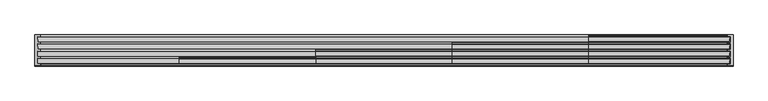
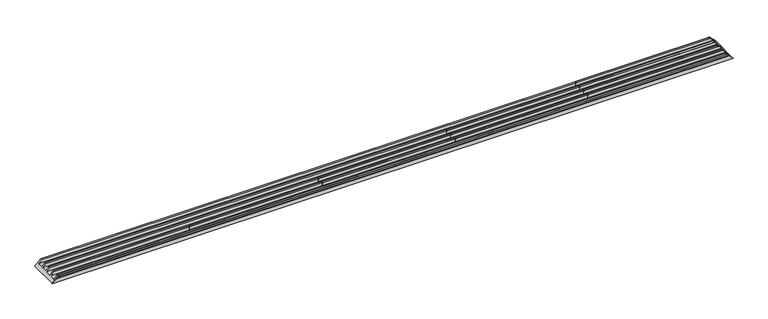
"""IFC4 building model written with IfcOpenShell, lengths in millimetres: proxy geometry, Weiku - Montante - Caixilho quíntuplo 02.2.01.003-003 refilado : Weiku - Montante - Caixilho quíntuplo 02.2.01.003-003 refilado."""

from ifc_helpers import new_model, si_unit, point, frame, frame_2d, origin, place, context, project, spatial, polyline, circle_curve, ellipse_curve, trimmed, segment, composite_curve, outline, extrude, faceted_brep, source, transform, mapped, element, save
from ifc_brep_helpers import plane_surface, cylinder_surface, revolved_surface, advanced_brep


def generic_models_486d1e09(model_context):
    return source(origin(), model_context, "Body", "SolidModel", [
        advanced_brep(
        [(1756.2, -15.0, 52.0), (1756.2, -15.0, 26.0), (1756.2, -62.0, 23.7770256), (1756.2, -62.0, 52.0), (1756.2, -77.0, 52.0), (1756.2, -77.0, 26.0), (1756.2, -124.0, 23.7770256), (1756.2, -124.0, 52.0), (1756.2, -139.0, 52.0), (1756.2, -139.0, 26.0), (1756.2, -186.0, 23.7770256), (1756.2, -186.0, 52.0), (1756.2, -201.0, 52.0), (1756.2, -201.0, 26.0), (1756.2, -248.0, 23.7770256), (1756.2, -248.0, 52.0), (1756.2, -246.0, 52.0), (1756.2, -246.0, 26.8749739), (1756.2, -203.0, 28.908759), (1756.2, -203.0, 55.0), (1756.2, -202.0, 56.0), (1756.2, -185.0, 56.0), (1756.2, -184.0, 55.0), (1756.2, -184.0, 26.8749739), (1756.2, -141.0, 28.908759), (1756.2, -141.0, 55.0), (1756.2, -140.0, 56.0), (1756.2, -123.0, 56.0), (1756.2, -122.0, 55.0), (1756.2, -122.0, 26.8749739), (1756.2, -79.0, 28.908759), (1756.2, -79.0, 55.0), (1756.2, -78.0, 56.0), (1756.2, -61.0, 56.0), (1756.2, -60.0, 55.0), (1756.2, -60.0, 26.8749739), (1756.2, -17.0, 28.908759), (1756.2, -17.0, 55.0), (1756.2, -16.0, 56.0), (1756.2, -1.0, 56.0), (1756.2, 0.0, 55.0), (1756.2, 0.0, 52.0), (2945.0, 0.0, 52.0), (2945.0, -15.0, 52.0), (2942.0, 0.0, 55.0), (2941.0, -1.0, 56.0), (2941.0, -16.0, 56.0), (2942.0, -17.0, 55.0), (2968.091241, -17.0, 28.908759), (2942.0, -122.0, 55.0), (2970.1250261, -122.0, 26.8749739), (2973.2229744, -124.0, 23.7770256), (2945.0, -124.0, 52.0), (2971.0, -15.0, 26.0), (2941.0, -123.0, 56.0), (2942.0, -203.0, 55.0), (2941.0, -202.0, 56.0), (2968.091241, -203.0, 28.908759), (2970.1250261, -246.0, 26.8749739), (2945.0, -246.0, 52.0), (2945.0, -248.0, 52.0), (2973.2229744, -248.0, 23.7770256), (2971.0, -201.0, 26.0), (2945.0, -201.0, 52.0), (2941.0, -140.0, 56.0), (2942.0, -141.0, 55.0), (2968.091241, -141.0, 28.908759), (2970.1250261, -184.0, 26.8749739), (2942.0, -184.0, 55.0), (2941.0, -185.0, 56.0), (2945.0, -186.0, 52.0), (2973.2229744, -186.0, 23.7770256), (2971.0, -139.0, 26.0), (2945.0, -139.0, 52.0), (2970.1250261, -60.0, 26.8749739), (2942.0, -60.0, 55.0), (2941.0, -61.0, 56.0), (2941.0, -78.0, 56.0), (2942.0, -79.0, 55.0), (2968.091241, -79.0, 28.908759), (2971.0, -77.0, 26.0), (2945.0, -77.0, 52.0), (2945.0, -62.0, 52.0), (2973.2229744, -62.0, 23.7770256)],
        [
            (0, 1),
            (1, 2),
            (2, 3),
            (3, 4),
            (4, 5),
            (5, 6),
            (6, 7),
            (7, 8),
            (8, 9),
            (9, 10),
            (10, 11),
            (11, 12),
            (12, 13),
            (13, 14),
            (14, 15),
            (15, 16),
            (16, 17),
            (17, 18),
            (18, 19),
            (19, 20, circle_curve(frame((1756.2, -202.0, 55.0), z_axis=(-1.0, 0.0, 0.0), x_axis=(0.0, -1.0, 0.0)), 1.0)),
            (20, 21),
            (21, 22, circle_curve(frame((1756.2, -185.0, 55.0), z_axis=(-1.0, 0.0, 0.0), x_axis=(0.0, -1.0, 0.0)), 1.0)),
            (22, 23),
            (23, 24),
            (24, 25),
            (25, 26, circle_curve(frame((1756.2, -140.0, 55.0), z_axis=(-1.0, 0.0, 0.0), x_axis=(0.0, -1.0, 0.0)), 1.0)),
            (26, 27),
            (27, 28, circle_curve(frame((1756.2, -123.0, 55.0), z_axis=(-1.0, 0.0, 0.0), x_axis=(0.0, -1.0, 0.0)), 1.0)),
            (28, 29),
            (29, 30),
            (30, 31),
            (31, 32, circle_curve(frame((1756.2, -78.0, 55.0), z_axis=(-1.0, 0.0, 0.0), x_axis=(0.0, -1.0, 0.0)), 1.0)),
            (32, 33),
            (33, 34, circle_curve(frame((1756.2, -61.0, 55.0), z_axis=(-1.0, 0.0, 0.0), x_axis=(0.0, -1.0, 0.0)), 1.0)),
            (34, 35),
            (35, 36),
            (36, 37),
            (37, 38, circle_curve(frame((1756.2, -16.0, 55.0), z_axis=(-1.0, 0.0, 0.0), x_axis=(0.0, -1.0, 0.0)), 1.0)),
            (38, 39),
            (39, 40, circle_curve(frame((1756.2, -1.0, 55.0), z_axis=(-1.0, 0.0, 0.0), x_axis=(0.0, -1.0, 0.0)), 1.0)),
            (40, 41),
            (41, 0),
            (41, 42),
            (42, 43),
            (43, 0),
            (40, 44),
            (44, 42),
            (39, 45),
            (45, 44, ellipse_curve(frame((2942.0, -1.0, 55.0), z_axis=(-0.7071067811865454, 0.0, -0.7071067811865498), x_axis=(-0.7071067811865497, 0.0, 0.7071067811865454)), 1.4142136, 1.0)),
            (38, 46),
            (46, 45),
            (37, 47),
            (47, 46, ellipse_curve(frame((2942.0, -16.0, 55.0), z_axis=(-0.7071067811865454, 0.0, -0.7071067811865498), x_axis=(-0.7071067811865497, 0.0, 0.7071067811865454)), 1.4142136, 1.0)),
            (36, 48),
            (48, 47),
            (28, 49),
            (49, 50),
            (50, 29),
            (6, 51),
            (51, 52),
            (52, 7),
            (43, 53),
            (53, 1),
            (27, 54),
            (54, 49, ellipse_curve(frame((2942.0, -123.0, 55.0), z_axis=(-0.7071067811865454, 0.0, -0.7071067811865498), x_axis=(-0.7071067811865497, 0.0, 0.7071067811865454)), 1.4142136, 1.0)),
            (19, 55),
            (55, 56, ellipse_curve(frame((2942.0, -202.0, 55.0), z_axis=(-0.7071067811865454, 0.0, -0.7071067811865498), x_axis=(-0.7071067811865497, 0.0, 0.7071067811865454)), 1.4142136, 1.0)),
            (56, 20),
            (18, 57),
            (57, 55),
            (17, 58),
            (58, 57),
            (16, 59),
            (59, 58),
            (15, 60),
            (60, 59),
            (14, 61),
            (61, 60),
            (13, 62),
            (62, 61),
            (12, 63),
            (63, 62),
            (26, 64),
            (64, 54),
            (25, 65),
            (65, 64, ellipse_curve(frame((2942.0, -140.0, 55.0), z_axis=(-0.7071067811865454, 0.0, -0.7071067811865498), x_axis=(-0.7071067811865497, 0.0, 0.7071067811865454)), 1.4142136, 1.0)),
            (24, 66),
            (66, 65),
            (23, 67),
            (67, 66),
            (22, 68),
            (68, 67),
            (21, 69),
            (69, 68, ellipse_curve(frame((2942.0, -185.0, 55.0), z_axis=(-0.7071067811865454, 0.0, -0.7071067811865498), x_axis=(-0.7071067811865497, 0.0, 0.7071067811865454)), 1.4142136, 1.0)),
            (56, 69),
            (11, 70),
            (70, 63),
            (10, 71),
            (71, 70),
            (9, 72),
            (72, 71),
            (8, 73),
            (73, 72),
            (52, 73),
            (35, 74),
            (74, 48),
            (34, 75),
            (75, 74),
            (33, 76),
            (76, 75, ellipse_curve(frame((2942.0, -61.0, 55.0), z_axis=(-0.7071067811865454, 0.0, -0.7071067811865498), x_axis=(-0.7071067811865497, 0.0, 0.7071067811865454)), 1.4142136, 1.0)),
            (32, 77),
            (77, 76),
            (31, 78),
            (78, 77, ellipse_curve(frame((2942.0, -78.0, 55.0), z_axis=(-0.7071067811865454, 0.0, -0.7071067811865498), x_axis=(-0.7071067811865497, 0.0, 0.7071067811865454)), 1.4142136, 1.0)),
            (30, 79),
            (79, 78),
            (50, 79),
            (5, 80),
            (80, 51),
            (4, 81),
            (81, 80),
            (3, 82),
            (82, 81),
            (2, 83),
            (83, 82),
            (53, 83),
        ],
        [
            plane_surface(frame((1756.2, 0.0, 0.0), z_axis=(-1.0, 0.0, 0.0), x_axis=(0.0, 0.0, 1.0))),
            plane_surface(frame((1756.2, -15.0, 52.0), z_axis=(0.0, 0.0, -1.0), x_axis=(1.0, 0.0, 0.0))),
            plane_surface(frame((1756.2, 0.0, 52.0), z_axis=(0.0, 1.0, 0.0), x_axis=(1.0, 0.0, 0.0))),
            cylinder_surface(frame((1756.2, -1.0, 55.0), z_axis=(-1.0, 0.0, 0.0), x_axis=(0.0, -1.0, 0.0)), 1.0),
            plane_surface(frame((1756.2, -1.0, 56.0), z_axis=(0.0, 0.0, 1.0), x_axis=(1.0, 0.0, 0.0))),
            cylinder_surface(frame((1756.2, -16.0, 55.0), z_axis=(-1.0, 0.0, 0.0), x_axis=(0.0, -1.0, 0.0)), 1.0),
            plane_surface(frame((1756.2, -17.0, 55.0), z_axis=(0.0, -1.0, 0.0), x_axis=(1.0, 0.0, 0.0))),
            plane_surface(frame((1756.2, -122.0, 26.8749739), z_axis=(0.0, 1.0, 0.0), x_axis=(1.0, 0.0, 0.0))),
            plane_surface(frame((1756.2, -124.0, 52.0), z_axis=(0.0, -1.0, 0.0), x_axis=(1.0, 0.0, 0.0))),
            plane_surface(frame((1756.2, -15.0, 26.0), z_axis=(0.0, 1.0, 0.0), x_axis=(1.0, 0.0, 0.0))),
            cylinder_surface(frame((1756.2, -123.0, 55.0), z_axis=(-1.0, 0.0, 0.0), x_axis=(0.0, -1.0, 0.0)), 1.0),
            cylinder_surface(frame((1756.2, -202.0, 55.0), z_axis=(-1.0, 0.0, 0.0), x_axis=(0.0, -1.0, 0.0)), 1.0),
            plane_surface(frame((1756.2, -203.0, 55.0), z_axis=(0.0, -1.0, 0.0), x_axis=(1.0, 0.0, 0.0))),
            plane_surface(frame((1756.2, -203.0, 28.908759), z_axis=(0.0, -0.0472445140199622, 0.9988833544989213), x_axis=(1.0, 0.0, 0.0))),
            plane_surface(frame((1756.2, -246.0, 26.8749739), z_axis=(0.0, 1.0, 0.0), x_axis=(1.0, 0.0, 0.0))),
            plane_surface(frame((1756.2, -246.0, 52.0), z_axis=(0.0, 0.0, 1.0), x_axis=(1.0, 0.0, 0.0))),
            plane_surface(frame((1756.2, -248.0, 52.0), z_axis=(0.0, -1.0, 0.0), x_axis=(1.0, 0.0, 0.0))),
            plane_surface(frame((1756.2, -248.0, 23.7770256), z_axis=(0.0, 0.047244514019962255, -0.9988833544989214), x_axis=(1.0, 0.0, 0.0))),
            plane_surface(frame((1756.2, -201.0, 26.0), z_axis=(0.0, 1.0, 0.0), x_axis=(1.0, 0.0, 0.0))),
            plane_surface(frame((1756.2, -123.0, 56.0), z_axis=(0.0, 0.0, 1.0), x_axis=(1.0, 0.0, 0.0))),
            cylinder_surface(frame((1756.2, -140.0, 55.0), z_axis=(-1.0, 0.0, 0.0), x_axis=(0.0, -1.0, 0.0)), 1.0),
            plane_surface(frame((1756.2, -141.0, 55.0), z_axis=(0.0, -1.0, 0.0), x_axis=(1.0, 0.0, 0.0))),
            plane_surface(frame((1756.2, -141.0, 28.908759), z_axis=(0.0, -0.0472445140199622, 0.9988833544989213), x_axis=(1.0, 0.0, 0.0))),
            plane_surface(frame((1756.2, -184.0, 26.8749739), z_axis=(0.0, 1.0, 0.0), x_axis=(1.0, 0.0, 0.0))),
            cylinder_surface(frame((1756.2, -185.0, 55.0), z_axis=(-1.0, 0.0, 0.0), x_axis=(0.0, -1.0, 0.0)), 1.0),
            plane_surface(frame((1756.2, -185.0, 56.0), z_axis=(0.0, 0.0, 1.0), x_axis=(1.0, 0.0, 0.0))),
            plane_surface(frame((1756.2, -201.0, 52.0), z_axis=(0.0, 0.0, -1.0), x_axis=(1.0, 0.0, 0.0))),
            plane_surface(frame((1756.2, -186.0, 52.0), z_axis=(0.0, -1.0, 0.0), x_axis=(1.0, 0.0, 0.0))),
            plane_surface(frame((1756.2, -186.0, 23.7770256), z_axis=(0.0, 0.047244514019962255, -0.9988833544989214), x_axis=(1.0, 0.0, 0.0))),
            plane_surface(frame((1756.2, -139.0, 26.0), z_axis=(0.0, 1.0, 0.0), x_axis=(1.0, 0.0, 0.0))),
            plane_surface(frame((1756.2, -139.0, 52.0), z_axis=(0.0, 0.0, -1.0), x_axis=(1.0, 0.0, 0.0))),
            plane_surface(frame((1756.2, -17.0, 28.908759), z_axis=(0.0, -0.0472445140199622, 0.9988833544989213), x_axis=(1.0, 0.0, 0.0))),
            plane_surface(frame((1756.2, -60.0, 26.8749739), z_axis=(0.0, 1.0, 0.0), x_axis=(1.0, 0.0, 0.0))),
            cylinder_surface(frame((1756.2, -61.0, 55.0), z_axis=(-1.0, 0.0, 0.0), x_axis=(0.0, -1.0, 0.0)), 1.0),
            plane_surface(frame((1756.2, -61.0, 56.0), z_axis=(0.0, 0.0, 1.0), x_axis=(1.0, 0.0, 0.0))),
            cylinder_surface(frame((1756.2, -78.0, 55.0), z_axis=(-1.0, 0.0, 0.0), x_axis=(0.0, -1.0, 0.0)), 1.0),
            plane_surface(frame((1756.2, -79.0, 55.0), z_axis=(0.0, -1.0, 0.0), x_axis=(1.0, 0.0, 0.0))),
            plane_surface(frame((1756.2, -79.0, 28.908759), z_axis=(0.0, -0.0472445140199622, 0.9988833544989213), x_axis=(1.0, 0.0, 0.0))),
            plane_surface(frame((1756.2, -124.0, 23.7770256), z_axis=(0.0, 0.047244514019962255, -0.9988833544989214), x_axis=(1.0, 0.0, 0.0))),
            plane_surface(frame((1756.2, -77.0, 26.0), z_axis=(0.0, 1.0, 0.0), x_axis=(1.0, 0.0, 0.0))),
            plane_surface(frame((1756.2, -77.0, 52.0), z_axis=(0.0, 0.0, -1.0), x_axis=(1.0, 0.0, 0.0))),
            plane_surface(frame((1756.2, -62.0, 52.0), z_axis=(0.0, -1.0, 0.0), x_axis=(1.0, 0.0, 0.0))),
            plane_surface(frame((1756.2, -62.0, 23.7770256), z_axis=(0.0, 0.047244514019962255, -0.9988833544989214), x_axis=(1.0, 0.0, 0.0))),
            plane_surface(frame((2997.0, 12.7162259, 0.0), z_axis=(0.7071067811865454, 0.0, 0.7071067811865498), x_axis=(-0.7071067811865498, 0.0, 0.7071067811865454))),
        ],
        [
            (0, [[1, 2, 3, 4, 5, 6, 7, 8, 9, 10, 11, 12, 13, 14, 15, 16, 17, 18, 19, 20, 21, 22, 23, 24, 25, 26, 27, 28, 29, 30, 31, 32, 33, 34, 35, 36, 37, 38, 39, 40, 41, 42]]),
            (1, [[43, 44, 45, -42]]),
            (2, [[46, 47, -43, -41]]),
            (3, [[48, 49, -46, -40]]),
            (4, [[50, 51, -48, -39]]),
            (5, [[52, 53, -50, -38]]),
            (6, [[54, 55, -52, -37]]),
            (7, [[56, 57, 58, -29]]),
            (8, [[59, 60, 61, -7]]),
            (9, [[-45, 62, 63, -1]]),
            (10, [[64, 65, -56, -28]]),
            (11, [[66, 67, 68, -20]]),
            (12, [[69, 70, -66, -19]]),
            (13, [[71, 72, -69, -18]]),
            (14, [[73, 74, -71, -17]]),
            (15, [[75, 76, -73, -16]]),
            (16, [[77, 78, -75, -15]]),
            (17, [[79, 80, -77, -14]]),
            (18, [[81, 82, -79, -13]]),
            (19, [[83, 84, -64, -27]]),
            (20, [[85, 86, -83, -26]]),
            (21, [[87, 88, -85, -25]]),
            (22, [[89, 90, -87, -24]]),
            (23, [[91, 92, -89, -23]]),
            (24, [[93, 94, -91, -22]]),
            (25, [[-68, 95, -93, -21]]),
            (26, [[96, 97, -81, -12]]),
            (27, [[98, 99, -96, -11]]),
            (28, [[100, 101, -98, -10]]),
            (29, [[102, 103, -100, -9]]),
            (30, [[-61, 104, -102, -8]]),
            (31, [[105, 106, -54, -36]]),
            (32, [[107, 108, -105, -35]]),
            (33, [[109, 110, -107, -34]]),
            (34, [[111, 112, -109, -33]]),
            (35, [[113, 114, -111, -32]]),
            (36, [[115, 116, -113, -31]]),
            (37, [[-58, 117, -115, -30]]),
            (38, [[118, 119, -59, -6]]),
            (39, [[120, 121, -118, -5]]),
            (40, [[122, 123, -120, -4]]),
            (41, [[124, 125, -122, -3]]),
            (42, [[-63, 126, -124, -2]]),
            (43, [[-47, -49, -51, -53, -55, -106, -108, -110, -112, -114, -116, -117, -57, -65, -84, -86, -88, -90, -92, -94, -95, -67, -70, -72, -74, -76, -78, -80, -82, -97, -99, -101, -103, -104, -60, -119, -121, -123, -125, -126, -62, -44]]),
        ],
    ),
        extrude(outline(composite_curve([segment(polyline([(-77.0, 52.0), (-77.0, 26.0), (-124.0, 23.7770256), (-124.0, 52.0), (-139.0, 52.0), (-139.0, 26.0), (-186.0, 23.7770256), (-186.0, 52.0), (-201.0, 52.0), (-201.0, 26.0), (-248.0, 23.7770256), (-248.0, 52.0), (-246.0, 52.0), (-246.0, 26.8749739), (-203.0, 28.908759), (-203.0, 55.0)]), True, "CONTINUOUS"), segment(trimmed(circle_curve(frame_2d((-202.0, 55.0)), 1.0), [point((-203.0, 55.0))], [point((-202.0, 56.0))], False, "CARTESIAN"), True, "CONTINUOUS"), segment(polyline([(-202.0, 56.0), (-185.0, 56.0)]), True, "CONTINUOUS"), segment(trimmed(circle_curve(frame_2d((-185.0, 55.0)), 1.0), [point((-185.0, 56.0))], [point((-184.0, 55.0))], False, "CARTESIAN"), True, "CONTINUOUS"), segment(polyline([(-184.0, 55.0), (-184.0, 26.8749739), (-141.0, 28.908759), (-141.0, 55.0)]), True, "CONTINUOUS"), segment(trimmed(circle_curve(frame_2d((-140.0, 55.0)), 1.0), [point((-141.0, 55.0))], [point((-140.0, 56.0))], False, "CARTESIAN"), True, "CONTINUOUS"), segment(polyline([(-140.0, 56.0), (-123.0, 56.0)]), True, "CONTINUOUS"), segment(trimmed(circle_curve(frame_2d((-123.0, 55.0)), 1.0), [point((-123.0, 56.0))], [point((-122.0, 55.0))], False, "CARTESIAN"), True, "CONTINUOUS"), segment(polyline([(-122.0, 55.0), (-122.0, 26.8749739), (-79.0, 28.908759), (-79.0, 55.0)]), True, "CONTINUOUS"), segment(trimmed(circle_curve(frame_2d((-78.0, 55.0)), 1.0), [point((-79.0, 55.0))], [point((-78.0, 56.0))], False, "CARTESIAN"), True, "CONTINUOUS"), segment(polyline([(-78.0, 56.0), (-63.0, 56.0)]), True, "CONTINUOUS"), segment(trimmed(circle_curve(frame_2d((-63.0, 55.0)), 1.0), [point((-63.0, 56.0))], [point((-62.0, 55.0))], False, "CARTESIAN"), True, "CONTINUOUS"), segment(polyline([(-62.0, 55.0), (-62.0, 52.0), (-77.0, 52.0)]), True, "CONTINUOUS")], self_intersect=False)), frame((585.4, 0.0, 0.0), z_axis=(1.0, 0.0, 0.0), x_axis=(0.0, 1.0, 0.0)), (0.0, 0.0, 1.0), 1170.8),
        advanced_brep(
        [(-2942.0, -246.0, 55.0), (2942.0, -246.0, 55.0), (2945.0, -246.0, 52.0), (-2945.0, -246.0, 52.0), (-2941.0, -247.0, 56.0), (2941.0, -247.0, 56.0), (-2941.0, -264.0, 56.0), (2941.0, -264.0, 56.0), (-2942.0, -265.0, 55.0), (2942.0, -265.0, 55.0), (-2956.0, -265.0, 41.0), (2956.0, -265.0, 41.0), (-2959.0, -266.0, 38.0), (2959.0, -266.0, 38.0), (-2962.0, -267.0, 35.0), (2962.0, -267.0, 35.0), (2997.0, -267.0, 0.0), (-2997.0, -267.0, 0.0), (-2997.0, -263.0, 0.0), (2997.0, -263.0, 0.0), (-2945.0, -263.0, 52.0), (2945.0, -263.0, 52.0)],
        [
            (0, 1),
            (1, 2),
            (2, 3),
            (3, 0),
            (4, 5),
            (5, 1, ellipse_curve(frame((2942.0, -247.0, 55.0), z_axis=(-0.7071067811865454, 0.0, -0.7071067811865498), x_axis=(-0.7071067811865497, 0.0, 0.7071067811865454)), 1.4142136, 1.0)),
            (0, 4, ellipse_curve(frame((-2942.0, -247.0, 55.0), z_axis=(0.707106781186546, 0.0, -0.7071067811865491), x_axis=(-0.7071067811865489, 0.0, -0.707106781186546)), 1.4142136, 1.0)),
            (6, 7),
            (7, 5),
            (4, 6),
            (8, 9),
            (9, 7, ellipse_curve(frame((2942.0, -264.0, 55.0), z_axis=(-0.7071067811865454, 0.0, -0.7071067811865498), x_axis=(-0.7071067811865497, 0.0, 0.7071067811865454)), 1.4142136, 1.0)),
            (6, 8, ellipse_curve(frame((-2942.0, -264.0, 55.0), z_axis=(0.707106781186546, 0.0, -0.7071067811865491), x_axis=(-0.7071067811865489, 0.0, -0.707106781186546)), 1.4142136, 1.0)),
            (10, 11),
            (11, 9),
            (8, 10),
            (12, 13),
            (13, 11, ellipse_curve(frame((2956.0, -270.0, 41.0), z_axis=(0.7071067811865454, 0.0, 0.7071067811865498), x_axis=(0.7071067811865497, 0.0, -0.7071067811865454)), 7.0710678, 5.0)),
            (10, 12, ellipse_curve(frame((-2956.0, -270.0, 41.0), z_axis=(-0.707106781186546, 0.0, 0.7071067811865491), x_axis=(0.7071067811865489, 0.0, 0.707106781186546)), 7.0710678, 5.0)),
            (14, 15),
            (15, 13, ellipse_curve(frame((2962.0, -262.0, 35.0), z_axis=(-0.7071067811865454, 0.0, -0.7071067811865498), x_axis=(-0.7071067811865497, 0.0, 0.7071067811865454)), 7.0710678, 5.0)),
            (12, 14, ellipse_curve(frame((-2962.0, -262.0, 35.0), z_axis=(0.707106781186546, 0.0, -0.7071067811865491), x_axis=(-0.7071067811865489, 0.0, -0.707106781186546)), 7.0710678, 5.0)),
            (16, 15),
            (14, 17),
            (17, 16),
            (17, 18),
            (18, 19),
            (19, 16),
            (18, 20),
            (20, 21),
            (21, 19),
            (2, 21),
            (20, 3),
        ],
        [
            plane_surface(frame((-2997.0, -246.0, 52.0), z_axis=(0.0, 1.0, 0.0), x_axis=(1.0, 0.0, 0.0))),
            cylinder_surface(frame((-2997.0, -247.0, 55.0), z_axis=(-1.0, 0.0, 0.0), x_axis=(0.0, -1.0, 0.0)), 1.0),
            plane_surface(frame((-2997.0, -247.0, 56.0), z_axis=(0.0, 0.0, 1.0), x_axis=(1.0, 0.0, 0.0))),
            cylinder_surface(frame((-2997.0, -264.0, 55.0), z_axis=(-1.0, 0.0, 0.0), x_axis=(0.0, -1.0, 0.0)), 1.0),
            plane_surface(frame((-2997.0, -265.0, 55.0), z_axis=(0.0, -1.0, 0.0), x_axis=(1.0, 0.0, 0.0))),
            revolved_surface(polyline([(2960.99999999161, -275.0, 41.0), (-2960.99999999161, -275.0, 41.0)]), (-2997.0, -270.0, 41.0), (1.0, 0.0, 0.0)),
            cylinder_surface(frame((-2997.0, -262.0, 35.0), z_axis=(-1.0, 0.0, 0.0), x_axis=(0.0, -1.0, 0.0)), 5.0),
            plane_surface(frame((-2997.0, -267.0, 35.0), z_axis=(0.0, -1.0, 0.0), x_axis=(1.0, 0.0, 0.0))),
            plane_surface(frame((-2997.0, -267.0, 0.0), z_axis=(0.0, 0.0, -1.0), x_axis=(1.0, 0.0, 0.0))),
            plane_surface(frame((-2997.0, -263.0, 0.0), z_axis=(0.0, 1.0, 0.0), x_axis=(1.0, 0.0, 0.0))),
            plane_surface(frame((-2997.0, -263.0, 52.0), z_axis=(0.0, 0.0, -1.0), x_axis=(1.0, 0.0, 0.0))),
            plane_surface(frame((-2997.0, -287.2837741, 0.0), z_axis=(-0.707106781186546, 0.0, 0.7071067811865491), x_axis=(0.7071067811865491, 0.0, 0.707106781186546))),
            plane_surface(frame((2997.0, 12.7162259, 0.0), z_axis=(0.7071067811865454, 0.0, 0.7071067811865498), x_axis=(-0.7071067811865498, 0.0, 0.7071067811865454))),
        ],
        [
            (0, [[1, 2, 3, 4]]),
            (1, [[5, 6, -1, 7]]),
            (2, [[8, 9, -5, 10]]),
            (3, [[11, 12, -8, 13]]),
            (4, [[14, 15, -11, 16]]),
            (5, [[17, 18, -14, 19]]),
            (6, [[20, 21, -17, 22]]),
            (7, [[23, -20, 24, 25]]),
            (8, [[26, 27, 28, -25]]),
            (9, [[29, 30, 31, -27]]),
            (10, [[-3, 32, -30, 33]]),
            (11, [[-33, -29, -26, -24, -22, -19, -16, -13, -10, -7, -4]]),
            (12, [[-6, -9, -12, -15, -18, -21, -23, -28, -31, -32, -2]]),
        ],
    ),
        faceted_brep([(-2971.0, -139.0, 26.0), (2971.0, -139.0, 26.0), (2945.0, -139.0, 52.0), (-2945.0, -139.0, 52.0), (-2973.2229744, -186.0, 23.7770256), (2973.2229744, -186.0, 23.7770256), (-2945.0, -186.0, 52.0), (2945.0, -186.0, 52.0), (-2945.0, -201.0, 52.0), (2945.0, -201.0, 52.0), (-2997.0, -263.0, 0.0), (-2997.0, 0.0, 0.0), (2997.0, 0.0, 0.0), (2997.0, -263.0, 0.0), (2945.0, -124.0, 52.0), (-2945.0, -124.0, 52.0), (-2971.0, -201.0, 26.0), (2971.0, -201.0, 26.0), (-2973.2229744, -248.0, 23.7770256), (2973.2229744, -248.0, 23.7770256), (-2945.0, -248.0, 52.0), (2945.0, -248.0, 52.0), (-2945.0, -263.0, 52.0), (2945.0, -263.0, 52.0), (-2945.0, 0.0, 52.0), (2945.0, 0.0, 52.0), (2973.2229744, -124.0, 23.7770256), (-2973.2229744, -124.0, 23.7770256), (-2971.0, -77.0, 26.0), (-2945.0, -77.0, 52.0), (-2945.0, -62.0, 52.0), (-2973.2229744, -62.0, 23.7770256), (-2971.0, -15.0, 26.0), (-2945.0, -15.0, 52.0), (2945.0, -15.0, 52.0), (2971.0, -15.0, 26.0), (2973.2229744, -62.0, 23.7770256), (2945.0, -62.0, 52.0), (2945.0, -77.0, 52.0), (2971.0, -77.0, 26.0)], [[[0, 1, 2, 3]], [[4, 5, 1, 0]], [[6, 7, 5, 4]], [[8, 9, 7, 6]], [[10, 11, 12, 13]], [[3, 2, 14, 15]], [[16, 17, 9, 8]], [[18, 19, 17, 16]], [[20, 21, 19, 18]], [[22, 23, 21, 20]], [[13, 23, 22, 10]], [[11, 24, 25, 12]], [[15, 14, 26, 27]], [[3, 15, 27, 28, 29, 30, 31, 32, 33, 24, 11, 10, 22, 20, 18, 16, 8, 6, 4, 0]], [[1, 5, 7, 9, 17, 19, 21, 23, 13, 12, 25, 34, 35, 36, 37, 38, 39, 26, 14, 2]], [[33, 34, 25, 24]], [[32, 35, 34, 33]], [[31, 36, 35, 32]], [[30, 37, 36, 31]], [[29, 38, 37, 30]], [[28, 39, 38, 29]], [[27, 26, 39, 28]]]),
        extrude(outline(composite_curve([segment(polyline([(-201.0, 52.0), (-201.0, 26.0), (-248.0, 23.7770256), (-248.0, 52.0), (-246.0, 52.0), (-246.0, 26.8749739), (-203.0, 28.908759), (-203.0, 55.0)]), True, "CONTINUOUS"), segment(trimmed(circle_curve(frame_2d((-202.0, 55.0)), 1.0), [point((-203.0, 55.0))], [point((-202.0, 56.0))], False, "CARTESIAN"), True, "CONTINUOUS"), segment(polyline([(-202.0, 56.0), (-187.0, 56.0)]), True, "CONTINUOUS"), segment(trimmed(circle_curve(frame_2d((-187.0, 55.0)), 1.0), [point((-187.0, 56.0))], [point((-186.0, 55.0))], False, "CARTESIAN"), True, "CONTINUOUS"), segment(polyline([(-186.0, 55.0), (-186.0, 52.0), (-201.0, 52.0)]), True, "CONTINUOUS")], self_intersect=False)), frame((-1756.2, 0.0, 0.0), z_axis=(1.0, 0.0, 0.0), x_axis=(0.0, 1.0, 0.0)), (0.0, 0.0, 1.0), 1170.8),
        extrude(outline(composite_curve([segment(polyline([(-139.0, 52.0), (-139.0, 26.0), (-186.0, 23.7770256), (-186.0, 52.0), (-201.0, 52.0), (-201.0, 26.0), (-248.0, 23.7770256), (-248.0, 52.0), (-246.0, 52.0), (-246.0, 26.8749739), (-203.0, 28.908759), (-203.0, 55.0)]), True, "CONTINUOUS"), segment(trimmed(circle_curve(frame_2d((-202.0, 55.0)), 1.0), [point((-203.0, 55.0))], [point((-202.0, 56.0))], False, "CARTESIAN"), True, "CONTINUOUS"), segment(polyline([(-202.0, 56.0), (-185.0, 56.0)]), True, "CONTINUOUS"), segment(trimmed(circle_curve(frame_2d((-185.0, 55.0)), 1.0), [point((-185.0, 56.0))], [point((-184.0, 55.0))], False, "CARTESIAN"), True, "CONTINUOUS"), segment(polyline([(-184.0, 55.0), (-184.0, 26.8749739), (-141.0, 28.908759), (-141.0, 55.0)]), True, "CONTINUOUS"), segment(trimmed(circle_curve(frame_2d((-140.0, 55.0)), 1.0), [point((-141.0, 55.0))], [point((-140.0, 56.0))], False, "CARTESIAN"), True, "CONTINUOUS"), segment(polyline([(-140.0, 56.0), (-125.0, 56.0)]), True, "CONTINUOUS"), segment(trimmed(circle_curve(frame_2d((-125.0, 55.0)), 1.0), [point((-125.0, 56.0))], [point((-124.0, 55.0))], False, "CARTESIAN"), True, "CONTINUOUS"), segment(polyline([(-124.0, 55.0), (-124.0, 52.0), (-139.0, 52.0)]), True, "CONTINUOUS")], self_intersect=False)), frame((-585.4, 0.0, 0.0), z_axis=(1.0, 0.0, 0.0), x_axis=(0.0, 1.0, 0.0)), (0.0, 0.0, 1.0), 1170.8),
    ])


if __name__ == "__main__":
    model = new_model("IFC4")
    model_context = context("Model", 3, world=origin())
    ifc_project = project(units=[si_unit("LENGTHUNIT", "METRE", prefix="MILLI")], contexts=[model_context])
    site = spatial("IfcSite", under=ifc_project)
    building = spatial("IfcBuilding", under=site)
    placement = place(None, origin())
    generic_models_shape = generic_models_486d1e09(model_context)
    element("IfcBuildingElementProxy", 1, Name="Weiku - Montante - Caixilho quíntuplo 02.2.01.003-003 refilado : Weiku - Montante - Caixilho quíntuplo 02.2.01.003-003 refilado", ObjectType="Weiku - Montante - Caixilho quíntuplo 02.2.01.003-003 refilado : Weiku - Montante - Caixilho quíntuplo 02.2.01.003-003 refilado", at=placement, inside=building, context=model_context, shape_type="MappedRepresentation", body=[
        mapped(generic_models_shape, transform((0.0, 0.0, 0.0), x_axis=(1.0, 0.0, 0.0), y_axis=(0.0, 1.0, 0.0), z_axis=(0.0, 0.0, 1.0))),
    ])
    save(model, "model.ifc")
